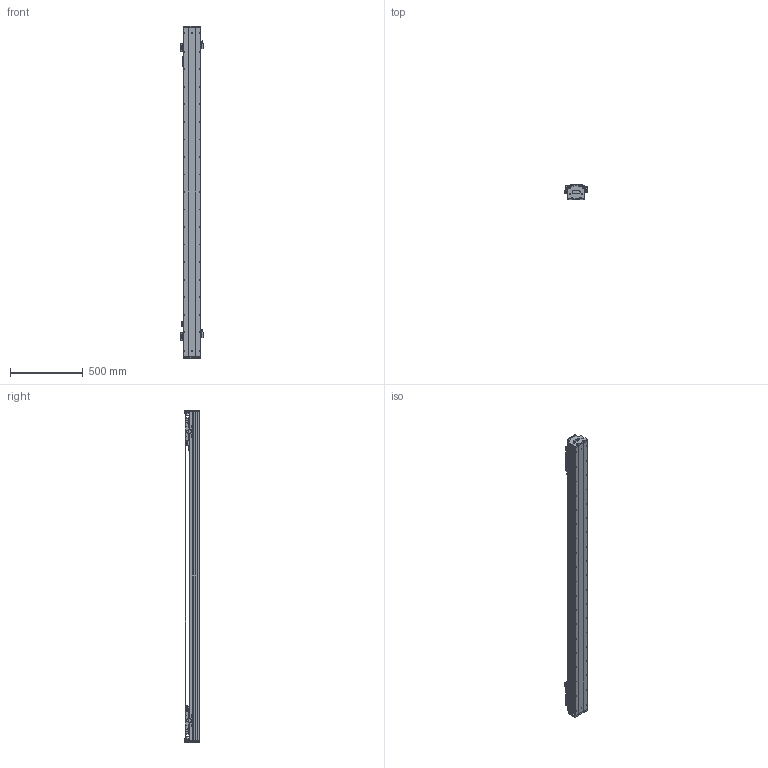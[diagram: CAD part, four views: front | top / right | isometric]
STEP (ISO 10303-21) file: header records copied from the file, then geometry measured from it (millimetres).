
FILE_DESCRIPTION (( 'STEP AP203' ), '1' );
FILE_NAME ('DKW119-2×C2-W060(T1760-L005-0.2).STEP', '2021-09-16T00:54:07', ( '微软用户' ), ( '微软中国' ), 'SwSTEP 2.0', 'SolidWorks 2018', '' );
FILE_SCHEMA (( 'CONFIG_CONTROL_DESIGN' ));
Length unit declared in the file: millimetre
Products named in the file (26): DKW-DG-XJ-Z-00 笢潔滅袉砎蝶; pm-y65; DKW-HXJ-JY-00 遣喳砎蝶; DKW-GYP-ZJ-00 笢潔嫖萇覜茼え; 10980-0001-003-00 嫖萇羲壽嘐隅釱; 11062-0001-004-00 DKW119傷啣; DKW-KGZ-ZJ-00 中间光电开关支架; 嫖萇羲壽蚾饜极; 06652-0001-004-00 DKW120嶺輸菜輸; EE_SX674A; 嫖萇羲壽蚾饜极A; 12018-0001-002-00 詩湍; 12018-0001-001-00 菁釱; DKW119-2×C2-W060(T1760-L005-0.2); DKW-SG-GYP-H-00 嫖萇覜茼え; 砎蝶猾沭; MSB15-DG-U; RUS嫖掑喜; 12160-0000-003-00 DKW120詩湍嶺輸; DKW119-RU-DTJ-00 RU2黍杅芛盓殤; Ru2; 12160-0000-004-00  DKW120詩湍揤輸; 电机出线 ^DKW119-2×C2-W060(T1760-L005-0.2); CKM02-W060_00; DKW119 单轴模组-拉钢带组件; CKMA01-W060-TRLxxx
Assembly tree (45 placements, depth 3):
  DKW119-2×C2-W060(T1760-L005-0.2)
    12018-0001-001-00 菁釱
    MSB15-DG-U  x2
    DKW119-RU-DTJ-00 RU2黍杅芛盓殤  x2
    电机出线 ^DKW119-2×C2-W060(T1760-L005-0.2)  x2
    CKMA01-W060-TRLxxx
    DKW119 单轴模组-拉钢带组件
      DKW-HXJ-JY-00 遣喳砎蝶  x4
      11062-0001-004-00 DKW119傷啣  x2
      06652-0001-004-00 DKW120嶺輸菜輸  x4
      12018-0001-002-00 詩湍
      砎蝶猾沭  x2
      12160-0000-003-00 DKW120詩湍嶺輸  x2
      12160-0000-004-00  DKW120詩湍揤輸  x2
    嫖萇羲壽蚾饜极
      pm-y65  x2
      10980-0001-003-00 嫖萇羲壽嘐隅釱
    嫖萇羲壽蚾饜极A
      pm-y65  x2
      10980-0001-003-00 嫖萇羲壽嘐隅釱
    DKW-SG-GYP-H-00 嫖萇覜茼え  x2
    RUS嫖掑喜
    Ru2  x2
    CKM02-W060_00  x2
    DKW-DG-XJ-Z-00 笢潔滅袉砎蝶
    DKW-GYP-ZJ-00 笢潔嫖萇覜茼え
    DKW-KGZ-ZJ-00 中间光电开关支架
    EE_SX674A
Bounding box: 154.3 x 99 x 2276 mm (x, y, z)
Volume: 10451620.2 mm3; surface area: 3339990.4 mm2
Topology: 62 solids, 160 shells, 6313 faces, 16806 edges, 10846 vertices
Faces by surface type: plane 3508, cylinder 1889, bspline 494, cone 422
Entity records: 128839 total; most frequent: CARTESIAN_POINT 43322, ORIENTED_EDGE 17219, DIRECTION 16390, EDGE_CURVE 8650, VERTEX_POINT 5684, AXIS2_PLACEMENT_3D 5482, LINE 5426, VECTOR 5426
